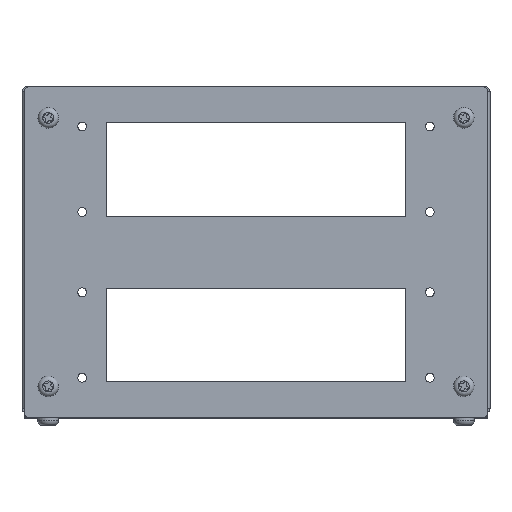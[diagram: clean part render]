
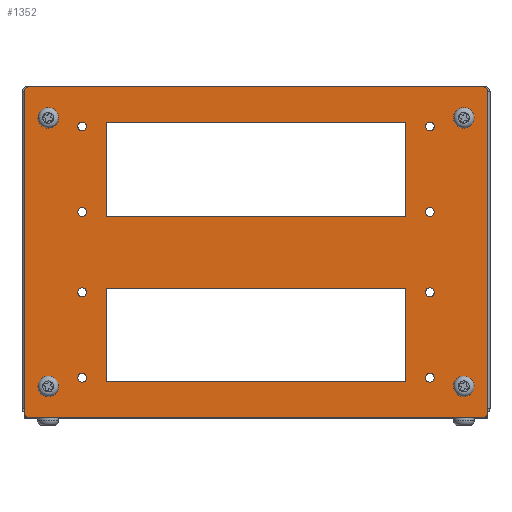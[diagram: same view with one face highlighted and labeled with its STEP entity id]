
A CAD part, top view. The second image highlights one B-rep face of the part: STEP entity #1352.
In plain terms, the highlighted planar face has unit normal (0, 0, 1).
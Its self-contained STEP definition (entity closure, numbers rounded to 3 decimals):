
#804=FACE_BOUND('',#2976,.T.);
#805=FACE_BOUND('',#2977,.T.);
#806=FACE_BOUND('',#2978,.T.);
#807=FACE_BOUND('',#2979,.T.);
#808=FACE_BOUND('',#2980,.T.);
#809=FACE_BOUND('',#2981,.T.);
#810=FACE_BOUND('',#2982,.T.);
#811=FACE_BOUND('',#2983,.T.);
#812=FACE_BOUND('',#2984,.T.);
#813=FACE_BOUND('',#2985,.T.);
#814=FACE_BOUND('',#2986,.T.);
#815=FACE_BOUND('',#2987,.T.);
#816=FACE_BOUND('',#2988,.T.);
#817=FACE_BOUND('',#2989,.T.);
#818=FACE_BOUND('',#2990,.T.);
#1352=ADVANCED_FACE('',(#804,#805,#806,#807,#808,#809,#810,#811,#812,#813,
#814,#815,#816,#817,#818),#2043,.F.);
#2043=PLANE('',#12761);
#2976=EDGE_LOOP('',(#4259));
#2977=EDGE_LOOP('',(#4260));
#2978=EDGE_LOOP('',(#4261));
#2979=EDGE_LOOP('',(#4262));
#2980=EDGE_LOOP('',(#4263,#4264,#4265,#4266));
#2981=EDGE_LOOP('',(#4267));
#2982=EDGE_LOOP('',(#4268));
#2983=EDGE_LOOP('',(#4269));
#2984=EDGE_LOOP('',(#4270));
#2985=EDGE_LOOP('',(#4271));
#2986=EDGE_LOOP('',(#4272));
#2987=EDGE_LOOP('',(#4273));
#2988=EDGE_LOOP('',(#4274));
#2989=EDGE_LOOP('',(#4275,#4276,#4277,#4278));
#2990=EDGE_LOOP('',(#4279,#4280,#4281,#4282,#4283,#4284,#4285,#4286));
#4259=ORIENTED_EDGE('',*,*,#8685,.T.);
#4260=ORIENTED_EDGE('',*,*,#8686,.T.);
#4261=ORIENTED_EDGE('',*,*,#8687,.F.);
#4262=ORIENTED_EDGE('',*,*,#8688,.F.);
#4263=ORIENTED_EDGE('',*,*,#8689,.F.);
#4264=ORIENTED_EDGE('',*,*,#8690,.F.);
#4265=ORIENTED_EDGE('',*,*,#8691,.F.);
#4266=ORIENTED_EDGE('',*,*,#8692,.F.);
#4267=ORIENTED_EDGE('',*,*,#8693,.F.);
#4268=ORIENTED_EDGE('',*,*,#8694,.F.);
#4269=ORIENTED_EDGE('',*,*,#8695,.T.);
#4270=ORIENTED_EDGE('',*,*,#8696,.F.);
#4271=ORIENTED_EDGE('',*,*,#8697,.F.);
#4272=ORIENTED_EDGE('',*,*,#8698,.T.);
#4273=ORIENTED_EDGE('',*,*,#8699,.T.);
#4274=ORIENTED_EDGE('',*,*,#8700,.T.);
#4275=ORIENTED_EDGE('',*,*,#8701,.F.);
#4276=ORIENTED_EDGE('',*,*,#8702,.F.);
#4277=ORIENTED_EDGE('',*,*,#8703,.F.);
#4278=ORIENTED_EDGE('',*,*,#8704,.F.);
#4279=ORIENTED_EDGE('',*,*,#8671,.T.);
#4280=ORIENTED_EDGE('',*,*,#8705,.T.);
#4281=ORIENTED_EDGE('',*,*,#8673,.T.);
#4282=ORIENTED_EDGE('',*,*,#8706,.T.);
#4283=ORIENTED_EDGE('',*,*,#8677,.T.);
#4284=ORIENTED_EDGE('',*,*,#8707,.T.);
#4285=ORIENTED_EDGE('',*,*,#8681,.T.);
#4286=ORIENTED_EDGE('',*,*,#8708,.T.);
#7435=VERTEX_POINT('',#17925);
#7436=VERTEX_POINT('',#17927);
#7437=VERTEX_POINT('',#17931);
#7438=VERTEX_POINT('',#17932);
#7441=VERTEX_POINT('',#17940);
#7442=VERTEX_POINT('',#17941);
#7445=VERTEX_POINT('',#17949);
#7446=VERTEX_POINT('',#17950);
#7449=VERTEX_POINT('',#17958);
#7450=VERTEX_POINT('',#17960);
#7451=VERTEX_POINT('',#17962);
#7452=VERTEX_POINT('',#17964);
#7453=VERTEX_POINT('',#17966);
#7454=VERTEX_POINT('',#17967);
#7455=VERTEX_POINT('',#17969);
#7456=VERTEX_POINT('',#17971);
#7457=VERTEX_POINT('',#17974);
#7458=VERTEX_POINT('',#17976);
#7459=VERTEX_POINT('',#17978);
#7460=VERTEX_POINT('',#17980);
#7461=VERTEX_POINT('',#17982);
#7462=VERTEX_POINT('',#17984);
#7463=VERTEX_POINT('',#17986);
#7464=VERTEX_POINT('',#17988);
#7465=VERTEX_POINT('',#17990);
#7466=VERTEX_POINT('',#17991);
#7467=VERTEX_POINT('',#17993);
#7468=VERTEX_POINT('',#17995);
#8671=EDGE_CURVE('',#7436,#7435,#10308,.T.);
#8673=EDGE_CURVE('',#7437,#7438,#10310,.T.);
#8677=EDGE_CURVE('',#7441,#7442,#10314,.T.);
#8681=EDGE_CURVE('',#7445,#7446,#10318,.T.);
#8685=EDGE_CURVE('',#7449,#7449,#11994,.T.);
#8686=EDGE_CURVE('',#7450,#7450,#11995,.T.);
#8687=EDGE_CURVE('',#7451,#7451,#11996,.T.);
#8688=EDGE_CURVE('',#7452,#7452,#11997,.T.);
#8689=EDGE_CURVE('',#7453,#7454,#10322,.T.);
#8690=EDGE_CURVE('',#7455,#7453,#10323,.T.);
#8691=EDGE_CURVE('',#7456,#7455,#10324,.T.);
#8692=EDGE_CURVE('',#7454,#7456,#10325,.T.);
#8693=EDGE_CURVE('',#7457,#7457,#11998,.T.);
#8694=EDGE_CURVE('',#7458,#7458,#11999,.T.);
#8695=EDGE_CURVE('',#7459,#7459,#12000,.T.);
#8696=EDGE_CURVE('',#7460,#7460,#12001,.T.);
#8697=EDGE_CURVE('',#7461,#7461,#12002,.T.);
#8698=EDGE_CURVE('',#7462,#7462,#12003,.T.);
#8699=EDGE_CURVE('',#7463,#7463,#12004,.T.);
#8700=EDGE_CURVE('',#7464,#7464,#12005,.T.);
#8701=EDGE_CURVE('',#7465,#7466,#10326,.T.);
#8702=EDGE_CURVE('',#7467,#7465,#10327,.T.);
#8703=EDGE_CURVE('',#7468,#7467,#10328,.T.);
#8704=EDGE_CURVE('',#7466,#7468,#10329,.T.);
#8705=EDGE_CURVE('',#7435,#7437,#12006,.T.);
#8706=EDGE_CURVE('',#7438,#7441,#12007,.T.);
#8707=EDGE_CURVE('',#7442,#7445,#12008,.T.);
#8708=EDGE_CURVE('',#7446,#7436,#12009,.T.);
#10308=LINE('',#17926,#11130);
#10310=LINE('',#17930,#11132);
#10314=LINE('',#17939,#11136);
#10318=LINE('',#17948,#11140);
#10322=LINE('',#17965,#11144);
#10323=LINE('',#17968,#11145);
#10324=LINE('',#17970,#11146);
#10325=LINE('',#17972,#11147);
#10326=LINE('',#17989,#11148);
#10327=LINE('',#17992,#11149);
#10328=LINE('',#17994,#11150);
#10329=LINE('',#17996,#11151);
#11130=VECTOR('',#14386,1.);
#11132=VECTOR('',#14390,1.);
#11136=VECTOR('',#14396,1.);
#11140=VECTOR('',#14402,1.);
#11144=VECTOR('',#14416,1.);
#11145=VECTOR('',#14417,1.);
#11146=VECTOR('',#14418,1.);
#11147=VECTOR('',#14419,1.);
#11148=VECTOR('',#14436,1.);
#11149=VECTOR('',#14437,1.);
#11150=VECTOR('',#14438,1.);
#11151=VECTOR('',#14439,1.);
#11994=CIRCLE('',#12745,1.65);
#11995=CIRCLE('',#12746,1.65);
#11996=CIRCLE('',#12747,1.65);
#11997=CIRCLE('',#12748,1.65);
#11998=CIRCLE('',#12749,1.65);
#11999=CIRCLE('',#12750,1.65);
#12000=CIRCLE('',#12751,2.5);
#12001=CIRCLE('',#12752,2.5);
#12002=CIRCLE('',#12753,2.5);
#12003=CIRCLE('',#12754,1.65);
#12004=CIRCLE('',#12755,1.65);
#12005=CIRCLE('',#12756,2.5);
#12006=CIRCLE('',#12757,2.);
#12007=CIRCLE('',#12758,2.);
#12008=CIRCLE('',#12759,2.);
#12009=CIRCLE('',#12760,2.);
#12745=AXIS2_PLACEMENT_3D('',#17957,#14408,#14409);
#12746=AXIS2_PLACEMENT_3D('',#17959,#14410,#14411);
#12747=AXIS2_PLACEMENT_3D('',#17961,#14412,#14413);
#12748=AXIS2_PLACEMENT_3D('',#17963,#14414,#14415);
#12749=AXIS2_PLACEMENT_3D('',#17973,#14420,#14421);
#12750=AXIS2_PLACEMENT_3D('',#17975,#14422,#14423);
#12751=AXIS2_PLACEMENT_3D('',#17977,#14424,#14425);
#12752=AXIS2_PLACEMENT_3D('',#17979,#14426,#14427);
#12753=AXIS2_PLACEMENT_3D('',#17981,#14428,#14429);
#12754=AXIS2_PLACEMENT_3D('',#17983,#14430,#14431);
#12755=AXIS2_PLACEMENT_3D('',#17985,#14432,#14433);
#12756=AXIS2_PLACEMENT_3D('',#17987,#14434,#14435);
#12757=AXIS2_PLACEMENT_3D('',#17997,#14440,#14441);
#12758=AXIS2_PLACEMENT_3D('',#17998,#14442,#14443);
#12759=AXIS2_PLACEMENT_3D('',#17999,#14444,#14445);
#12760=AXIS2_PLACEMENT_3D('',#18000,#14446,#14447);
#12761=AXIS2_PLACEMENT_3D('',#18001,#14448,#14449);
#14386=DIRECTION('',(-1.,0.,0.));
#14390=DIRECTION('',(0.,-1.,0.));
#14396=DIRECTION('',(1.,0.,0.));
#14402=DIRECTION('',(0.,1.,0.));
#14408=DIRECTION('',(0.,0.,-1.));
#14409=DIRECTION('',(-1.,0.,0.));
#14410=DIRECTION('',(0.,0.,-1.));
#14411=DIRECTION('',(-1.,0.,0.));
#14412=DIRECTION('',(0.,0.,1.));
#14413=DIRECTION('',(1.,0.,0.));
#14414=DIRECTION('',(0.,0.,1.));
#14415=DIRECTION('',(1.,0.,0.));
#14416=DIRECTION('',(-1.,0.,0.));
#14417=DIRECTION('',(0.,1.,0.));
#14418=DIRECTION('',(1.,0.,0.));
#14419=DIRECTION('',(0.,-1.,0.));
#14420=DIRECTION('',(0.,0.,1.));
#14421=DIRECTION('',(-1.,0.,0.));
#14422=DIRECTION('',(0.,0.,1.));
#14423=DIRECTION('',(-1.,0.,0.));
#14424=DIRECTION('',(0.,0.,-1.));
#14425=DIRECTION('',(-1.,0.,0.));
#14426=DIRECTION('',(0.,0.,1.));
#14427=DIRECTION('',(-1.,0.,0.));
#14428=DIRECTION('',(0.,0.,1.));
#14429=DIRECTION('',(1.,0.,0.));
#14430=DIRECTION('',(0.,0.,-1.));
#14431=DIRECTION('',(1.,0.,0.));
#14432=DIRECTION('',(0.,0.,-1.));
#14433=DIRECTION('',(1.,0.,0.));
#14434=DIRECTION('',(0.,0.,-1.));
#14435=DIRECTION('',(1.,0.,0.));
#14436=DIRECTION('',(-1.,0.,0.));
#14437=DIRECTION('',(0.,1.,0.));
#14438=DIRECTION('',(1.,0.,0.));
#14439=DIRECTION('',(0.,-1.,0.));
#14440=DIRECTION('',(0.,0.,1.));
#14441=DIRECTION('',(1.,0.,0.));
#14442=DIRECTION('',(0.,0.,1.));
#14443=DIRECTION('',(1.,0.,0.));
#14444=DIRECTION('',(0.,0.,1.));
#14445=DIRECTION('',(1.,0.,0.));
#14446=DIRECTION('',(0.,0.,1.));
#14447=DIRECTION('',(1.,0.,0.));
#14448=DIRECTION('',(0.,0.,-1.));
#14449=DIRECTION('',(1.,0.,0.));
#17925=CARTESIAN_POINT('',(3.,0.,64.5));
#17926=CARTESIAN_POINT('',(174.,0.,64.5));
#17927=CARTESIAN_POINT('',(172.,0.,64.5));
#17930=CARTESIAN_POINT('',(1.,0.,64.5));
#17931=CARTESIAN_POINT('',(1.,-2.,64.5));
#17932=CARTESIAN_POINT('',(1.,-122.,64.5));
#17939=CARTESIAN_POINT('',(1.,-124.,64.5));
#17940=CARTESIAN_POINT('',(3.,-124.,64.5));
#17941=CARTESIAN_POINT('',(172.,-124.,64.5));
#17948=CARTESIAN_POINT('',(174.,-124.,64.5));
#17949=CARTESIAN_POINT('',(174.,-122.,64.5));
#17950=CARTESIAN_POINT('',(174.,-2.,64.5));
#17957=CARTESIAN_POINT('',(22.5,-15.,64.5));
#17958=CARTESIAN_POINT('',(20.85,-15.,64.5));
#17959=CARTESIAN_POINT('',(22.5,-47.,64.5));
#17960=CARTESIAN_POINT('',(20.85,-47.,64.5));
#17961=CARTESIAN_POINT('',(152.5,-15.,64.5));
#17962=CARTESIAN_POINT('',(154.15,-15.,64.5));
#17963=CARTESIAN_POINT('',(152.5,-47.,64.5));
#17964=CARTESIAN_POINT('',(154.15,-47.,64.5));
#17965=CARTESIAN_POINT('',(31.5,-13.5,64.5));
#17966=CARTESIAN_POINT('',(143.5,-13.5,64.5));
#17967=CARTESIAN_POINT('',(31.5,-13.5,64.5));
#17968=CARTESIAN_POINT('',(143.5,-13.5,64.5));
#17969=CARTESIAN_POINT('',(143.5,-48.5,64.5));
#17970=CARTESIAN_POINT('',(143.5,-48.5,64.5));
#17971=CARTESIAN_POINT('',(31.5,-48.5,64.5));
#17972=CARTESIAN_POINT('',(31.5,-48.5,64.5));
#17973=CARTESIAN_POINT('',(22.5,-109.,64.5));
#17974=CARTESIAN_POINT('',(20.85,-109.,64.5));
#17975=CARTESIAN_POINT('',(22.5,-77.,64.5));
#17976=CARTESIAN_POINT('',(20.85,-77.,64.5));
#17977=CARTESIAN_POINT('',(9.8,-112.2,64.5));
#17978=CARTESIAN_POINT('',(7.3,-112.2,64.5));
#17979=CARTESIAN_POINT('',(9.8,-11.8,64.5));
#17980=CARTESIAN_POINT('',(7.3,-11.8,64.5));
#17981=CARTESIAN_POINT('',(165.2,-112.2,64.5));
#17982=CARTESIAN_POINT('',(167.7,-112.2,64.5));
#17983=CARTESIAN_POINT('',(152.5,-109.,64.5));
#17984=CARTESIAN_POINT('',(154.15,-109.,64.5));
#17985=CARTESIAN_POINT('',(152.5,-77.,64.5));
#17986=CARTESIAN_POINT('',(154.15,-77.,64.5));
#17987=CARTESIAN_POINT('',(165.2,-11.8,64.5));
#17988=CARTESIAN_POINT('',(167.7,-11.8,64.5));
#17989=CARTESIAN_POINT('',(143.5,-75.5,64.5));
#17990=CARTESIAN_POINT('',(143.5,-75.5,64.5));
#17991=CARTESIAN_POINT('',(31.5,-75.5,64.5));
#17992=CARTESIAN_POINT('',(143.5,-110.5,64.5));
#17993=CARTESIAN_POINT('',(143.5,-110.5,64.5));
#17994=CARTESIAN_POINT('',(31.5,-110.5,64.5));
#17995=CARTESIAN_POINT('',(31.5,-110.5,64.5));
#17996=CARTESIAN_POINT('',(31.5,-75.5,64.5));
#17997=CARTESIAN_POINT('',(3.,-2.,64.5));
#17998=CARTESIAN_POINT('',(3.,-122.,64.5));
#17999=CARTESIAN_POINT('',(172.,-122.,64.5));
#18000=CARTESIAN_POINT('',(172.,-2.,64.5));
#18001=CARTESIAN_POINT('',(174.,0.,64.5));
